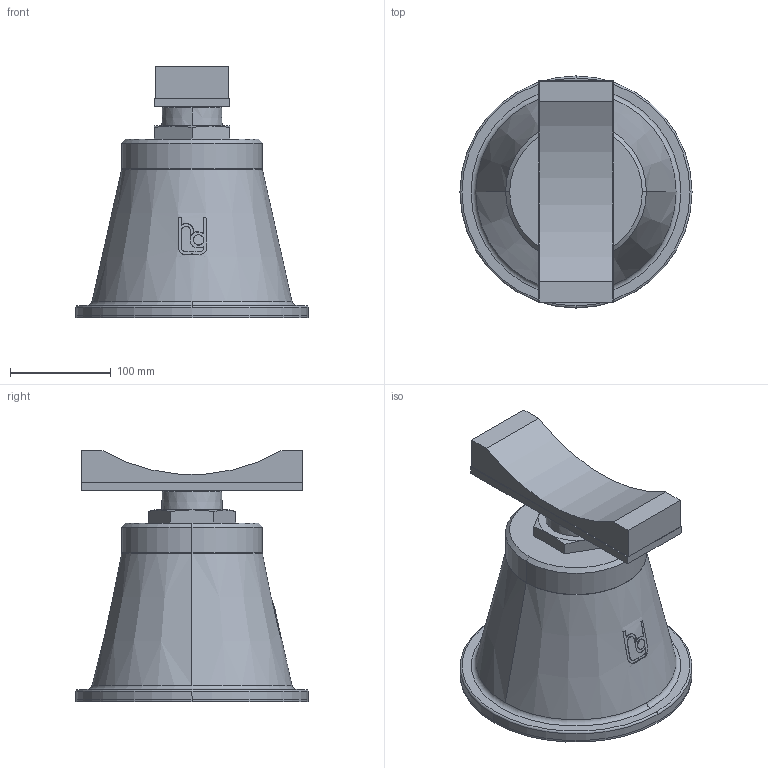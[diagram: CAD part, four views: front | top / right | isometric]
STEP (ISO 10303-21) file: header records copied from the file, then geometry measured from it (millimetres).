
FILE_DESCRIPTION(('STEP AP214'),'1');
FILE_NAME('RSRFN_DN350.stp','2018-06-29T13:05:56',(' '),(' '),'Spatial InterOp 3D',' ',' ');
FILE_SCHEMA(('automotive_design'));
Length unit declared in the file: millimetre
Products named in the file (6): 1; 2; 3; 4; 5; 6
Bounding box: 230 x 230 x 249 mm (x, y, z)
Volume: 5016812.9 mm3; surface area: 402038 mm2
Topology: 6 solids, 6 shells, 117 faces, 282 edges, 182 vertices
Faces by surface type: plane 49, cylinder 37, cone 23, torus 8
Entity records: 4852 total; most frequent: CARTESIAN_POINT 1045, DIRECTION 591, ORIENTED_EDGE 564, EDGE_CURVE 282, AXIS2_PLACEMENT_3D 228, VERTEX_POINT 182, LINE 135, VECTOR 135
